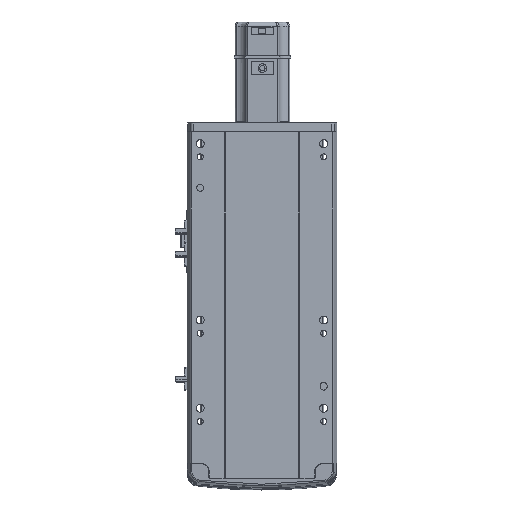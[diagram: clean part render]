
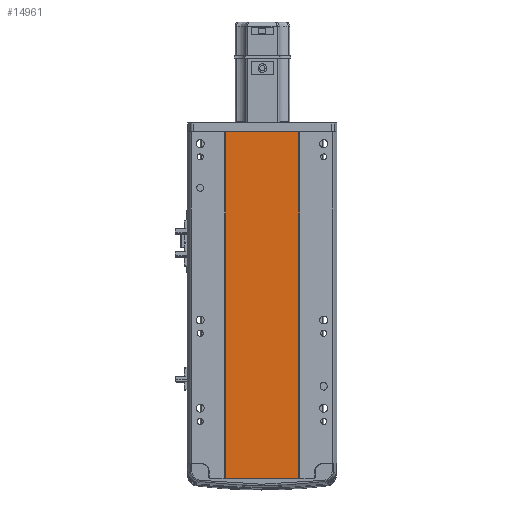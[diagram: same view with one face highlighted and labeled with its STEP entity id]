
A CAD part, front view. The second image highlights one B-rep face of the part: STEP entity #14961.
In plain terms, the highlighted planar face has unit normal (0, -1, 0).
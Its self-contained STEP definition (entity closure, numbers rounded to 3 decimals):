
#2881 = CARTESIAN_POINT ( 'NONE',  ( 41.793, 0.998, 393.5 ) ) ;
#3014 = VERTEX_POINT ( 'NONE', #25803 ) ;
#6627 = DIRECTION ( 'NONE',  ( 0., 1., 0. ) ) ;
#9955 = CARTESIAN_POINT ( 'NONE',  ( 0., 0.999, 393.5 ) ) ;
#10262 = ORIENTED_EDGE ( 'NONE', *, *, #44276, .F. ) ;
#10620 = VERTEX_POINT ( 'NONE', #33132 ) ;
#13345 = VECTOR ( 'NONE', #39067, 1000. ) ;
#13460 = ORIENTED_EDGE ( 'NONE', *, *, #29988, .T. ) ;
#13752 = LINE ( 'NONE', #2881, #35674 ) ;
#14961 = ADVANCED_FACE ( 'NONE', ( #29964 ), #28658, .F. ) ;
#17777 = DIRECTION ( 'NONE',  ( 0., 0., -1. ) ) ;
#19547 = ORIENTED_EDGE ( 'NONE', *, *, #29573, .T. ) ;
#19995 = VECTOR ( 'NONE', #27652, 1000. ) ;
#21742 = AXIS2_PLACEMENT_3D ( 'NONE', #9955, #6627, #32361 ) ;
#23167 = LINE ( 'NONE', #46780, #13345 ) ;
#23930 = CARTESIAN_POINT ( 'NONE',  ( 0., 0.999, 0. ) ) ;
#24071 = VECTOR ( 'NONE', #41027, 1000. ) ;
#25803 = CARTESIAN_POINT ( 'NONE',  ( 41.793, 0.998, 393.5 ) ) ;
#27652 = DIRECTION ( 'NONE',  ( 1., 0., 0. ) ) ;
#28658 = PLANE ( 'NONE',  #21742 ) ;
#29490 = CARTESIAN_POINT ( 'NONE',  ( -41.791, 1., 0. ) ) ;
#29573 = EDGE_CURVE ( 'NONE', #10620, #39833, #33909, .T. ) ;
#29964 = FACE_OUTER_BOUND ( 'NONE', #30068, .T. ) ;
#29988 = EDGE_CURVE ( 'NONE', #39833, #47645, #41912, .T. ) ;
#30068 = EDGE_LOOP ( 'NONE', ( #13460, #38038, #10262, #19547 ) ) ;
#31078 = CARTESIAN_POINT ( 'NONE',  ( 41.793, 0.998, 0. ) ) ;
#31381 = EDGE_CURVE ( 'NONE', #3014, #47645, #13752, .T. ) ;
#32361 = DIRECTION ( 'NONE',  ( -1., 0., 0. ) ) ;
#33132 = CARTESIAN_POINT ( 'NONE',  ( -41.791, 1., 393.5 ) ) ;
#33909 = LINE ( 'NONE', #37168, #24071 ) ;
#35674 = VECTOR ( 'NONE', #17777, 1000. ) ;
#37168 = CARTESIAN_POINT ( 'NONE',  ( -41.791, 1., 393.5 ) ) ;
#38038 = ORIENTED_EDGE ( 'NONE', *, *, #31381, .F. ) ;
#39067 = DIRECTION ( 'NONE',  ( 1., 0., 0. ) ) ;
#39833 = VERTEX_POINT ( 'NONE', #29490 ) ;
#41027 = DIRECTION ( 'NONE',  ( 0., 0., -1. ) ) ;
#41912 = LINE ( 'NONE', #23930, #19995 ) ;
#44276 = EDGE_CURVE ( 'NONE', #10620, #3014, #23167, .T. ) ;
#46780 = CARTESIAN_POINT ( 'NONE',  ( 0., 0.999, 393.5 ) ) ;
#47645 = VERTEX_POINT ( 'NONE', #31078 ) ;
